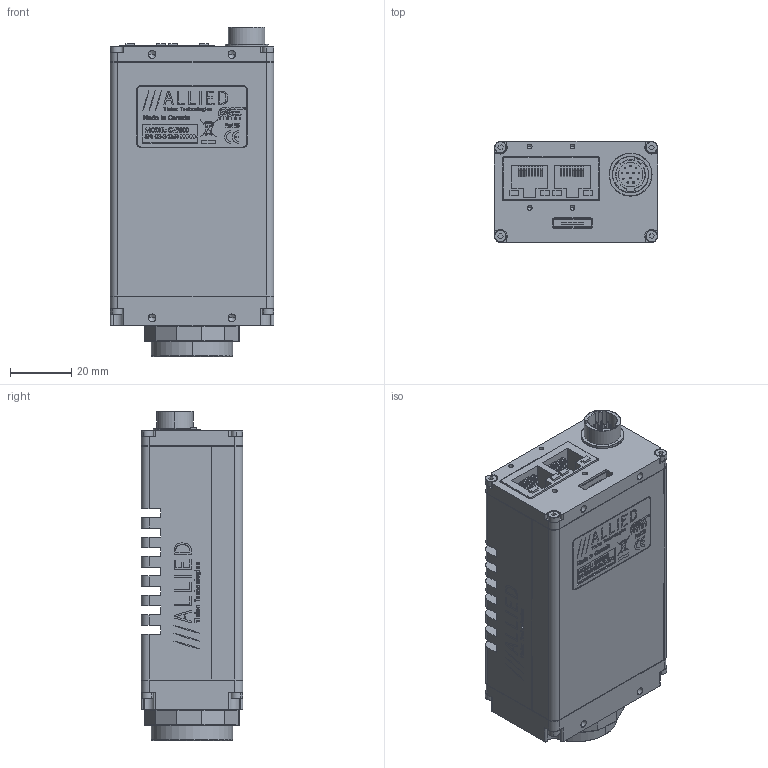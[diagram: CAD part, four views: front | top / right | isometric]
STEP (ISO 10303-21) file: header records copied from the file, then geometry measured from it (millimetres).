
FILE_DESCRIPTION (( 'STEP AP214' ), '1' );
FILE_NAME ('GX2300 CMOUNT_new.STEP', '2013-07-30T22:00:32', ( '' ), ( '' ), 'SwSTEP 2.0', 'SolidWorks 2013', '' );
FILE_SCHEMA (( 'AUTOMOTIVE_DESIGN' ));
Length unit declared in the file: millimetre
Products named in the file (22): 100172B - GX BODY ASSY-THERMAL; 200114A-GX MAIN PCBA; 260043-HALO HFJ12-1G16ER-L12RL; 200115A-GX POWER PCBA; 260048-HIROSE 3260-8S3; 110100B-GX TOP COVER-THERMAL_Finished; 100171A - GX BACK ASSY; 260034-HIROSE HR10A-10R-12PB; 110097A-GX BACK PLATE; 110099B-GX BOTTOM COVER-THERMAL_Finished; 740118B-GX2300 THERMAL LABEL PRINT; 740102B-GX SERIES LABEL; 100177A - GX2300 FRONT ASSY CMOUNT; 140061-SCREW SKT CAP M2x8 SS; 110003AC-CV CMOUNT RING; 110031A-B EC-CCD LOCKING RING; GX2300 CMOUNT_new; 110109A-GX FRONT PLATE LF; 110103A-GX CCD GASKET; 220180-KODAK KAI-04050-ABA; KODAK KAI-04050 WINDOW; KODAK KAI-04050 BODY
Assembly tree (28 placements, depth 4):
  GX2300 CMOUNT_new
    140061-SCREW SKT CAP M2x8 SS  x4
    740102B-GX SERIES LABEL
    100172B - GX BODY ASSY-THERMAL
      140061-SCREW SKT CAP M2x8 SS  x4
      110099B-GX BOTTOM COVER-THERMAL_Finished
      100171A - GX BACK ASSY
        110097A-GX BACK PLATE
        260034-HIROSE HR10A-10R-12PB
      110100B-GX TOP COVER-THERMAL_Finished
      200115A-GX POWER PCBA
        260048-HIROSE 3260-8S3
      200114A-GX MAIN PCBA
        260043-HALO HFJ12-1G16ER-L12RL
    100177A - GX2300 FRONT ASSY CMOUNT
      220180-KODAK KAI-04050-ABA
        KODAK KAI-04050 BODY
        KODAK KAI-04050 WINDOW
      110103A-GX CCD GASKET
      110109A-GX FRONT PLATE LF
      110031A-B EC-CCD LOCKING RING
      110003AC-CV CMOUNT RING
    740118B-GX2300 THERMAL LABEL PRINT
Bounding box: 53.39 x 33.02 x 107.36 mm (x, y, z)
Volume: 79159.5 mm3; surface area: 71457.7 mm2
Topology: 66 solids, 66 shells, 4107 faces, 10636 edges, 6916 vertices
Faces by surface type: plane 2239, bspline 913, cylinder 711, cone 244
Entity records: 199491 total; most frequent: CARTESIAN_POINT 62080, ORIENTED_EDGE 20504, DIRECTION 16180, EDGE_CURVE 10252, LINE 6914, VECTOR 6914, VERTEX_POINT 6748, AXIS2_PLACEMENT_3D 4633
